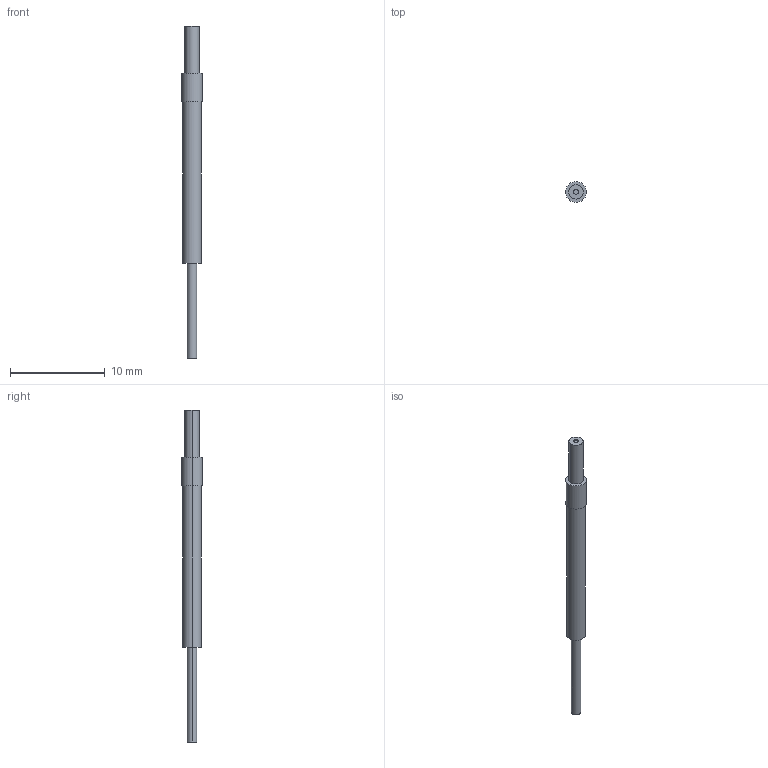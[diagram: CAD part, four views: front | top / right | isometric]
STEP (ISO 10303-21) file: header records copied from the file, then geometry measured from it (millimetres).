
FILE_DESCRIPTION (( 'STEP AP203' ), '1' );
FILE_NAME ('FT-SNFM2.STEP', '2005-09-08T02:25:55', ( '' ), ( '' ), 'SwSTEP 2.0', 'SolidWorks 2004073', '' );
FILE_SCHEMA (( 'CONFIG_CONTROL_DESIGN' ));
Length unit declared in the file: millimetre
Products named in the file (1): FT-SNFM2
Bounding box: 2.2 x 2.2 x 35 mm (x, y, z)
Volume: 81.5 mm3; surface area: 190.3 mm2
Topology: 1 solids, 1 shells, 16 faces, 30 edges, 20 vertices
Faces by surface type: cylinder 10, plane 6
Entity records: 491 total; most frequent: DIRECTION 84, CARTESIAN_POINT 67, ORIENTED_EDGE 60, AXIS2_PLACEMENT_3D 37, EDGE_CURVE 30, VERTEX_POINT 20, EDGE_LOOP 20, CIRCLE 20
